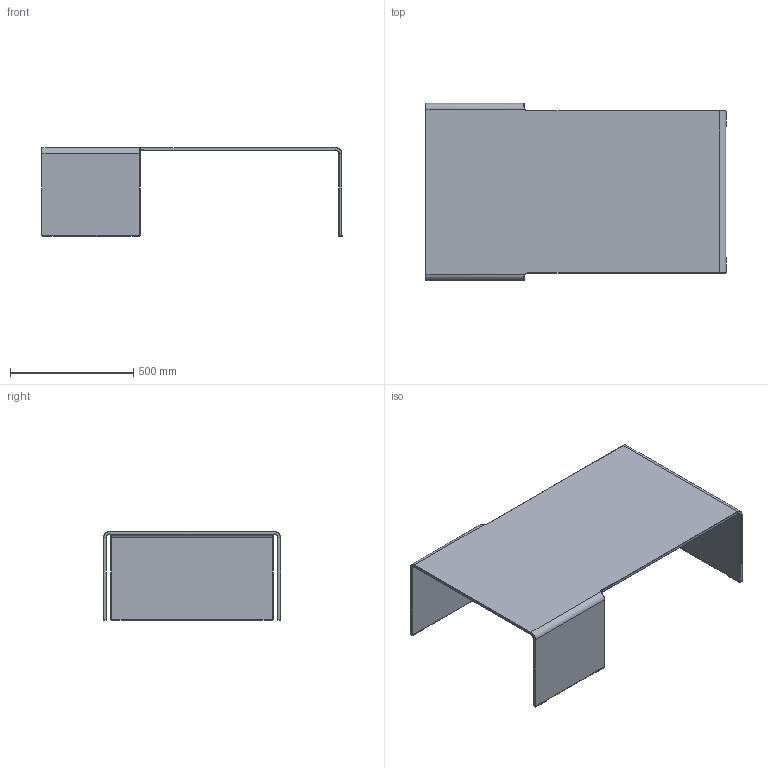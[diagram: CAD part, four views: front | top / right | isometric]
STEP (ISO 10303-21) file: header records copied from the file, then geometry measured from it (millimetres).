
FILE_DESCRIPTION((''),'2;1');
FILE_NAME('C:\AutodeskVault\AreaLavoro\Progetti\SoVeT Italia\2. Tavolini_Coffee tables\Spider\Web file\Spider Web\P4661.stp','2012-06-14T09:55:56',('Gianluca'),('So.Ve.T. s.r.l.'),'Autodesk Inventor 2013','Autodesk Inventor 2013','IL PROGETTO E'' DI ESCLUSIVA PROPRIETA'' DELLA SO.VE.T. srl. E'' VIETATA OGNI RIPRODUZIONE TOTALE O PARZIALE E QUALSIASI UTILIZZO NON AUTORIZZATO. ');
FILE_SCHEMA(('AUTOMOTIVE_DESIGN { 1 0 10303 214 1 1 1 1 }'));
Length unit declared in the file: millimetre
Products named in the file (1): P4661 Contorno semplificato
Bounding box: 1221.3 x 722.6 x 361.2 mm (x, y, z)
Volume: 15908163.8 mm3; surface area: 2721651.3 mm2
Topology: 1 solids, 1 shells, 216 faces, 558 edges, 332 vertices
Faces by surface type: plane 116, cylinder 62, cone 28, bspline 10
Entity records: 8547 total; most frequent: CARTESIAN_POINT 3003, ORIENTED_EDGE 1116, DIRECTION 1104, EDGE_CURVE 558, VECTOR 386, LINE 386, AXIS2_PLACEMENT_3D 359, VERTEX_POINT 332
